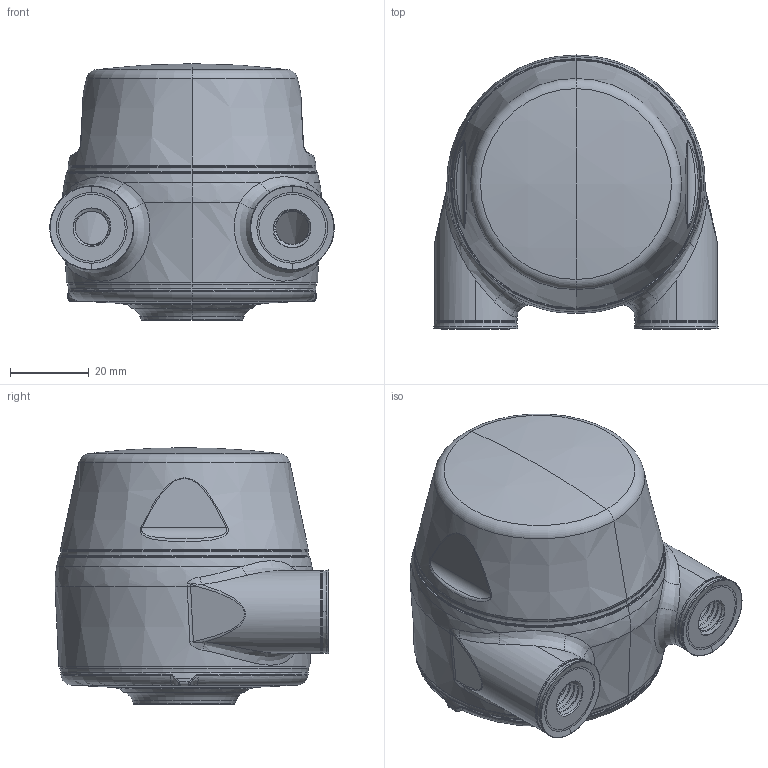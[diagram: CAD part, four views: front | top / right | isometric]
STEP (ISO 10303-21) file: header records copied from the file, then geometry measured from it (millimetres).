
FILE_DESCRIPTION (( 'STEP AP203' ), '1' );
FILE_NAME ('XBTBC52(White)-CSB2500(Front)-CL(Blue)-OS(White)_Shell.step', '2020-08-06T00:22:47', ( '' ), ( '' ), 'SwSTEP 2.0', 'SolidWorks 2019', '' );
FILE_SCHEMA (( 'CONFIG_CONTROL_DESIGN' ));
Length unit declared in the file: millimetre
Products named in the file (1): XBTBC52(White)-CSB2500(Front)-CL(Blue)-OS(White)_Shell
Bounding box: 72.4 x 69.69 x 65.25 mm (x, y, z)
Surface area: 29085.2 mm2 (no closed solid volume)
Topology: 0 solids, 16 shells, 244 faces, 812 edges, 574 vertices
Faces by surface type: bspline 58, cone 55, cylinder 54, torus 52, plane 19, sphere 6
Entity records: 17573 total; most frequent: CARTESIAN_POINT 11052, ORIENTED_EDGE 1308, DIRECTION 1289, EDGE_CURVE 812, VERTEX_POINT 574, AXIS2_PLACEMENT_3D 567, CIRCLE 380, EDGE_LOOP 262
